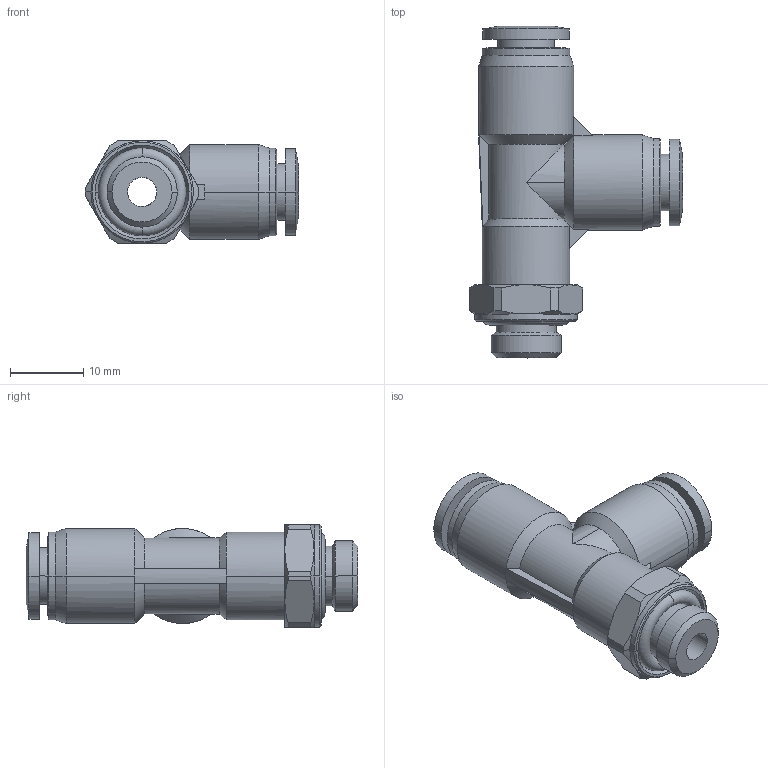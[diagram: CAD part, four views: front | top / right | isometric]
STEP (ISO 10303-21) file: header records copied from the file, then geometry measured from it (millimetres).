
FILE_DESCRIPTION (( 'STEP AP203' ), '1' );
FILE_NAME ('FLT06-01.STEP', '2020-05-12T14:15:00', ( '' ), ( '' ), 'SwSTEP 2.0', 'SolidWorks 2019', '' );
FILE_SCHEMA (( 'CONFIG_CONTROL_DESIGN' ));
Length unit declared in the file: millimetre
Products named in the file (1): FLT06-01
Bounding box: 29.15 x 45.4 x 14 mm (x, y, z)
Surface area: 4244.5 mm2 (no closed solid volume)
Topology: 0 solids, 4 shells, 122 faces, 295 edges, 184 vertices
Faces by surface type: cylinder 46, cone 40, plane 27, bspline 5, torus 4
Entity records: 5849 total; most frequent: CARTESIAN_POINT 3427, ORIENTED_EDGE 574, DIRECTION 303, EDGE_CURVE 295, B_SPLINE_CURVE_WITH_KNOTS 228, VERTEX_POINT 184, EDGE_LOOP 135, AXIS2_PLACEMENT_3D 122
